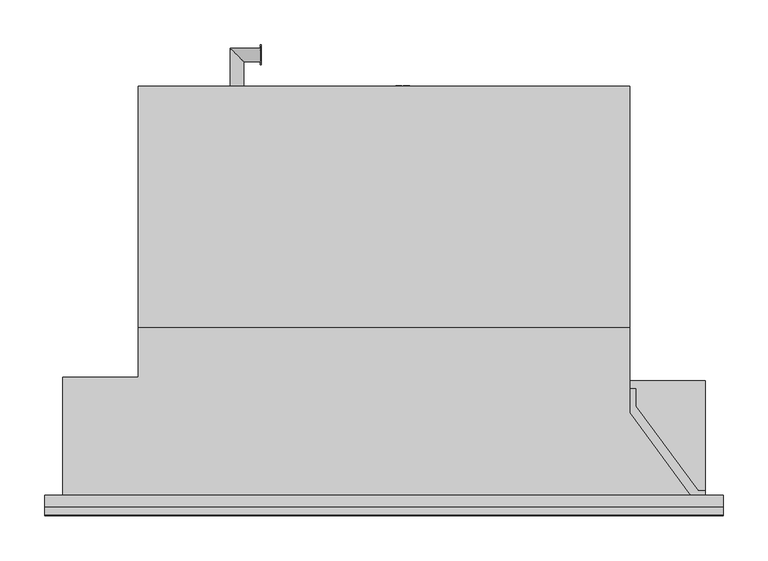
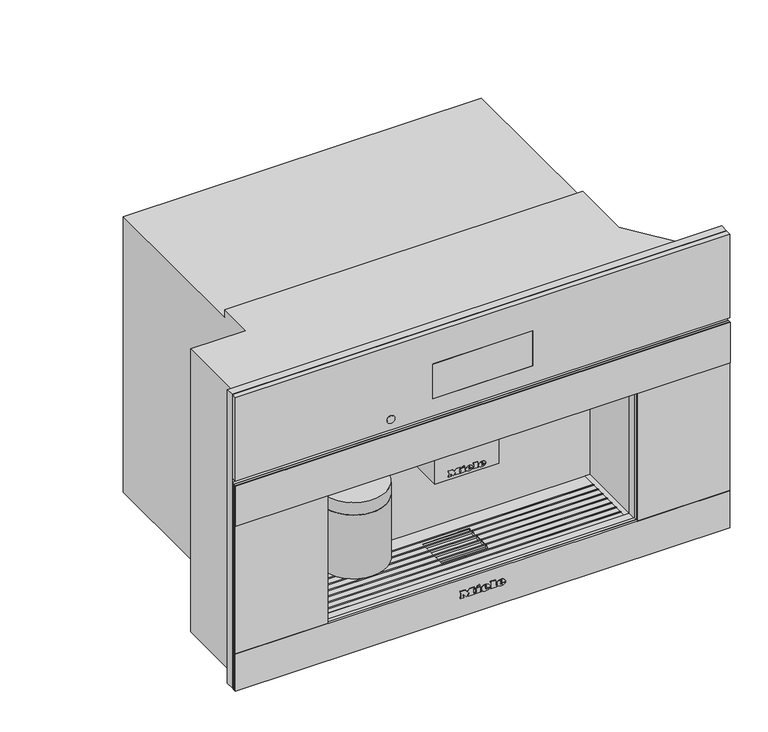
"""IFC4 building model written with IfcOpenShell, lengths in millimetres: proxy geometry, 12635830_USA_CVA7875_EDST-CLST : 29787540_USA_12635830_CVA7875_EDST-CLST."""

from ifc_helpers import new_model, si_unit, point, frame, frame_2d, origin, place, context, project, spatial, polyline, circle_curve, ellipse_curve, trimmed, segment, composite_curve, outline, extrude, faceted_brep, source, transform, mapped, element, save
from ifc_brep_helpers import plane_surface, cylinder_surface, revolved_surface, extruded_surface, advanced_brep


def specialty_equipment_da076db9(model_context):
    return source(origin(), model_context, "Body", "SolidModel", [
        extrude(outline(composite_curve([segment(trimmed(circle_curve(frame_2d((-14.0, 36.5)), 5.0), [point((-9.0, 36.5))], [point((-19.0, 36.5))], False, "CARTESIAN"), True, "CONTINUOUS"), segment(trimmed(circle_curve(frame_2d((-14.0, 36.5)), 5.0), [point((-19.0, 36.5))], [point((-9.0, 36.5))], False, "CARTESIAN"), True, "CONTINUOUS")], self_intersect=False)), frame((0.0, 0.0, 193.0), z_axis=(0.0, 0.0, 1.0), x_axis=(1.0, 0.0, 0.0)), (0.0, 0.0, 1.0), 5.0),
        extrude(outline(composite_curve([segment(trimmed(circle_curve(frame_2d((14.0, 36.5)), 5.0), [point((19.0, 36.5))], [point((9.0, 36.5))], False, "CARTESIAN"), True, "CONTINUOUS"), segment(trimmed(circle_curve(frame_2d((14.0, 36.5)), 5.0), [point((9.0, 36.5))], [point((19.0, 36.5))], False, "CARTESIAN"), True, "CONTINUOUS")], self_intersect=False)), frame((0.0, 0.0, 193.0), z_axis=(0.0, 0.0, 1.0), x_axis=(1.0, 0.0, 0.0)), (0.0, 0.0, 1.0), 5.0),
        extrude(outline(composite_curve([segment(trimmed(circle_curve(frame_2d((-156.5, 49.5)), 50.0), [point((-106.5, 49.5))], [point((-206.5, 49.5))], False, "CARTESIAN"), True, "CONTINUOUS"), segment(trimmed(circle_curve(frame_2d((-156.5, 49.5)), 50.0), [point((-206.5, 49.5))], [point((-106.5, 49.5))], False, "CARTESIAN"), True, "CONTINUOUS")], self_intersect=False)), frame((0.0, 0.0, 100.0), z_axis=(0.0, 0.0, 1.0), x_axis=(1.0, 0.0, 0.0)), (0.0, 0.0, 1.0), 103.0),
        extrude(outline(polyline([(-49.0, 95.0), (49.0, 95.0), (49.0, 20.0), (-49.0, 20.0), (-49.0, 95.0)])), frame((0.0, 0.0, 198.0), z_axis=(0.0, 0.0, 1.0), x_axis=(1.0, 0.0, 0.0)), (0.0, 0.0, 1.0), 75.0),
        extrude(outline(polyline([(479.0, 378.5), (479.0, -378.5), (4.0, -378.5), (4.0, 378.5), (479.0, 378.5)]), holes=[polyline([(273.0, 237.5), (63.0, 237.5), (63.0, -237.5), (273.0, -237.5), (273.0, 237.5)])]), frame((0.0, -13.0, 0.0), z_axis=(0.0, 1.0, 0.0), x_axis=(0.0, 0.0, 1.0)), (0.0, 0.0, 1.0), 13.0),
        extrude(outline(polyline([(281.0, 118.7), (281.0, 99.0591954), (350.457423, 4.7), (358.5, 4.7), (358.5, 0.0), (341.5, 0.0), (274.0, 91.7), (274.0, 118.7), (281.0, 118.7)])), frame((0.0, 0.0, 45.0), z_axis=(0.0, 0.0, 1.0), x_axis=(1.0, 0.0, 0.0)), (0.0, 0.0, 1.0), 34.0),
        faceted_brep([(-22.0, 400.0, 133.0), (55.0, 400.0, 133.0), (55.0, 400.0, 66.0), (35.0, 400.0, 66.0), (-22.0, 400.0, 89.0), (-22.0, 456.0, 133.0), (55.0, 456.0, 133.0), (55.0, 456.0, 66.0), (35.0, 456.0, 66.0), (-22.0, 456.0, 89.0), (358.5, 0.0, 0.0), (358.5, 127.7, 0.0), (358.5, 127.7, 45.0), (358.5, 0.0, 45.0), (-358.5, 0.0, 0.0), (-358.5, 0.0, 458.0), (-358.5, 131.7, 458.0), (-358.5, 131.7, 0.0), (-274.0, 131.7, 0.0), (-274.0, 456.0, 0.0), (274.0, 456.0, 0.0), (274.0, 127.7, 0.0), (274.0, 456.0, 446.0), (-274.0, 456.0, 446.0), (274.0, 187.0, 446.0), (-274.0, 187.0, 446.0), (274.0, 187.0, 458.0), (-274.0, 187.0, 458.0), (341.5, 0.0, 458.0), (274.0, 91.7, 458.0), (-274.0, 131.7, 458.0), (341.5, 0.0, 45.0), (237.5, 0.0, 273.0), (237.5, 0.0, 63.0), (229.5, 0.0, 63.0), (229.5, 0.0, 62.0), (-229.5, 0.0, 62.0), (-229.5, 0.0, 63.0), (-237.5, 0.0, 63.0), (-237.5, 0.0, 273.0), (237.5, 104.5, 273.0), (-237.5, 104.5, 273.0), (-237.5, 104.5, 63.0), (-229.5, 104.5, 63.0), (-229.5, 104.5, 62.0), (229.5, 104.5, 62.0), (229.5, 104.5, 63.0), (237.5, 104.5, 63.0), (-36.0, 76.0, 62.0), (36.0, 76.0, 62.0), (36.0, 25.0, 62.0), (-36.0, 25.0, 62.0), (36.0, 76.0, 58.0), (-36.0, 76.0, 58.0), (-36.0, 25.0, 58.0), (36.0, 25.0, 58.0), (274.0, 91.7, 45.0), (274.0, 127.7, 45.0)], [[[0, 1, 2, 3, 4]], [[1, 0, 5, 6]], [[2, 1, 6, 7]], [[3, 2, 7, 8]], [[4, 3, 8, 9]], [[0, 4, 9, 5]], [[10, 11, 12, 13]], [[14, 15, 16, 17]], [[10, 14, 17, 18, 19, 20, 21, 11]], [[22, 20, 19, 23], [6, 5, 9, 8, 7]], [[24, 22, 23, 25]], [[26, 24, 25, 27]], [[15, 28, 29, 26, 27, 30, 16]], [[15, 14, 10, 13, 31, 28], [32, 33, 34, 35, 36, 37, 38, 39]], [[40, 41, 42, 43, 44, 45, 46, 47]], [[40, 47, 33, 32]], [[33, 47, 46, 34]], [[42, 38, 37, 43]], [[42, 41, 39, 38]], [[41, 40, 32, 39]], [[45, 44, 36, 35], [48, 49, 50, 51]], [[36, 44, 43, 37]], [[45, 35, 34, 46]], [[52, 53, 54, 55]], [[53, 52, 49, 48]], [[54, 53, 48, 51]], [[55, 54, 51, 50]], [[52, 55, 50, 49]], [[21, 20, 22, 24, 26, 29, 56, 57]], [[18, 30, 27, 25, 23, 19]], [[11, 21, 57, 12]], [[57, 56, 31, 13, 12]], [[30, 18, 17, 16]], [[31, 56, 29, 28]]]),
        extrude(outline(polyline([(480.48348, 22.0), (480.48348, 32.045631), (481.7391839, 32.045631), (481.7391839, 27.128275), (486.8895318, 32.045631), (488.6455552, 32.045631), (484.3217155, 27.9155425), (488.8025182, 22.0), (487.267224, 22.0), (483.4314411, 27.0669613), (481.7391839, 25.4531857), (481.7391839, 22.0), (480.48348, 22.0)])), frame((-138.0, 0.0, 0.0), z_axis=(1.0, 0.0, 0.0), x_axis=(0.0, 1.0, 0.0)), (0.0, 0.0, 1.0), 1.0),
        extrude(outline(polyline([(491.5420128, 22.0), (488.8025182, 32.045631), (490.0974628, 32.045631), (491.6867131, 25.4433755), (492.1772224, 23.4053092), (492.7020674, 25.207931), (494.6935352, 32.045631), (496.5599232, 32.045631), (498.0069257, 27.0890343), (499.0835937, 23.4053092), (499.5593878, 25.3845144), (501.1633533, 32.045631), (502.4582979, 32.045631), (499.7163507, 22.0), (498.3748077, 22.0), (495.9664069, 29.7500474), (495.630408, 30.8316204), (495.2527159, 29.5293182), (493.0576866, 22.0), (491.5420128, 22.0)])), frame((-138.0, 0.0, 0.0), z_axis=(1.0, 0.0, 0.0), x_axis=(0.0, 1.0, 0.0)), (0.0, 0.0, 1.0), 1.0),
        advanced_brep(
        [(-156.5, 456.0, 27.0), (-171.5, 456.0, 27.0), (-156.5, 483.5, 27.0), (-171.5, 498.5, 27.0), (-138.0, 483.5, 27.0), (-138.0, 498.5, 27.0)],
        [
            (0, 1, circle_curve(frame((-164.0, 456.0, 27.0), z_axis=(0.0, -1.0, 0.0), x_axis=(-1.0, 0.0, 0.0)), 7.5)),
            (1, 0, circle_curve(frame((-164.0, 456.0, 27.0), z_axis=(0.0, -1.0, 0.0), x_axis=(-1.0, 0.0, 0.0)), 7.5)),
            (0, 2),
            (2, 3, ellipse_curve(frame((-164.0, 491.0, 27.0), z_axis=(-0.707106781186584, -0.7071067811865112, 0.0), x_axis=(0.7071067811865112, -0.7071067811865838, 0.0)), 10.6066017, 7.5)),
            (3, 1),
            (3, 2, ellipse_curve(frame((-164.0, 491.0, 27.0), z_axis=(-0.707106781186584, -0.7071067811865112, 0.0), x_axis=(0.7071067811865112, -0.7071067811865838, 0.0)), 10.6066017, 7.5)),
            (4, 5, circle_curve(frame((-138.0, 491.0, 27.0), z_axis=(1.0, 0.0, 0.0), x_axis=(0.0, 1.0, 0.0)), 7.5)),
            (5, 4, circle_curve(frame((-138.0, 491.0, 27.0), z_axis=(1.0, 0.0, 0.0), x_axis=(0.0, 1.0, 0.0)), 7.5)),
            (2, 4),
            (5, 3),
        ],
        [
            plane_surface(frame((-164.0, 456.0, 27.0), z_axis=(0.0, -1.0, 0.0), x_axis=(0.0, 0.0, 1.0))),
            cylinder_surface(frame((-164.0, 456.0, 27.0), z_axis=(0.0, -1.0, 0.0), x_axis=(-1.0, 0.0, 0.0)), 7.5),
            plane_surface(frame((-138.0, 491.0, 27.0), z_axis=(1.0, 0.0, 0.0), x_axis=(0.0, 0.0, 1.0))),
            cylinder_surface(frame((-164.0, 491.0, 27.0), z_axis=(-1.0, 0.0, 0.0), x_axis=(0.0, 1.0, 0.0)), 7.5),
        ],
        [
            (0, [[1, 2]]),
            (1, [[-1, 3, 4, 5]]),
            (1, [[-2, -5, 6, -3]]),
            (2, [[7, 8]]),
            (3, [[-4, 9, -8, 10]]),
            (3, [[-6, -10, -7, -9]]),
        ],
    ),
        extrude(outline(polyline([(99.0, 28.8772152), (109.045631, 28.8772152), (109.045631, 21.6569179), (107.7899271, 21.6569179), (107.7899271, 27.6215114), (104.8076304, 27.6215114), (104.8076304, 21.9708439), (103.5519266, 21.9708439), (103.5519266, 27.6215114), (100.2557039, 27.6215114), (100.2557039, 21.499955), (99.0, 21.499955), (99.0, 28.8772152)])), frame((0.0, 456.0, 0.0), z_axis=(0.0, 1.0, 0.0), x_axis=(0.0, 0.0, 1.0)), (0.0, 0.0, 1.0), 1.0),
        extrude(outline(polyline([(99.0, 19.6163991), (109.045631, 19.6163991), (109.045631, 18.3606953), (100.2557039, 18.3606953), (100.2557039, 13.3378798), (99.0, 13.3378798), (99.0, 19.6163991)])), frame((0.0, 456.0, 0.0), z_axis=(0.0, 1.0, 0.0), x_axis=(0.0, 0.0, 1.0)), (0.0, 0.0, 1.0), 1.0),
        advanced_brep(
        [(55.0, 425.5, 104.0), (55.0, 410.5, 104.0), (28.5, 425.5, 104.0), (13.5, 410.5, 104.0), (28.5, 456.0, 104.0), (13.5, 456.0, 104.0)],
        [
            (0, 1, circle_curve(frame((55.0, 418.0, 104.0), z_axis=(1.0, 0.0, 0.0), x_axis=(0.0, -1.0, 0.0)), 7.5)),
            (1, 0, circle_curve(frame((55.0, 418.0, 104.0), z_axis=(1.0, 0.0, 0.0), x_axis=(0.0, -1.0, 0.0)), 7.5)),
            (0, 2),
            (2, 3, ellipse_curve(frame((21.0, 418.0, 104.0), z_axis=(0.7071067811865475, -0.7071067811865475, 0.0), x_axis=(0.7071067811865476, 0.7071067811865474, 0.0)), 10.6066017, 7.5)),
            (3, 1),
            (3, 2, ellipse_curve(frame((21.0, 418.0, 104.0), z_axis=(0.7071067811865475, -0.7071067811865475, 0.0), x_axis=(0.7071067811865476, 0.7071067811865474, 0.0)), 10.6066017, 7.5)),
            (4, 5, circle_curve(frame((21.0, 456.0, 104.0), z_axis=(0.0, 1.0, 0.0), x_axis=(-1.0, 0.0, 0.0)), 7.5)),
            (5, 4, circle_curve(frame((21.0, 456.0, 104.0), z_axis=(0.0, 1.0, 0.0), x_axis=(-1.0, 0.0, 0.0)), 7.5)),
            (2, 4),
            (5, 3),
        ],
        [
            plane_surface(frame((55.0, 418.0, 104.0), z_axis=(1.0, 0.0, 0.0), x_axis=(0.0, 0.0, 1.0))),
            cylinder_surface(frame((55.0, 418.0, 104.0), z_axis=(1.0, 0.0, 0.0), x_axis=(0.0, -1.0, 0.0)), 7.5),
            plane_surface(frame((21.0, 456.0, 104.0), z_axis=(0.0, 1.0, 0.0), x_axis=(0.0, 0.0, 1.0))),
            cylinder_surface(frame((21.0, 418.0, 104.0), z_axis=(0.0, -1.0, 0.0), x_axis=(-1.0, 0.0, 0.0)), 7.5),
        ],
        [
            (0, [[1, 2]]),
            (1, [[-1, 3, 4, 5]]),
            (1, [[-2, -5, 6, -3]]),
            (2, [[7, 8]]),
            (3, [[-4, 9, -8, 10]]),
            (3, [[-6, -10, -7, -9]]),
        ],
    ),
        advanced_brep(
        [(-110.0, 49.5, 252.0), (-203.0, 49.5, 252.0), (-206.5, 49.5, 223.5), (-106.5, 49.5, 223.5), (-110.0, 49.5, 273.0), (-203.0, 49.5, 273.0), (-156.5, 49.5, 273.0), (-106.5, 49.5, 203.0), (-206.5, 49.5, 203.0), (-156.5, 49.5, 203.0)],
        [
            (0, 1, circle_curve(frame((-156.5, 49.5, 252.0), z_axis=(0.0, 0.0, -1.0), x_axis=(-1.0, 0.0, 0.0)), 46.5)),
            (1, 2, circle_curve(frame((-206.7961166, 49.5, 238.0012775), z_axis=(0.0, 1.0, 0.0), x_axis=(-1.0, 0.0, 0.0)), 14.5043005)),
            (2, 3, circle_curve(frame((-156.5, 49.5, 223.5), z_axis=(0.0, 0.0, 1.0), x_axis=(-1.0, 0.0, 0.0)), 50.0)),
            (3, 0, circle_curve(frame((-106.2038834, 49.5, 238.0012775), z_axis=(0.0, 1.0, 0.0), x_axis=(1.0, 0.0, 0.0)), 14.5043005)),
            (4, 5, circle_curve(frame((-156.5, 49.5, 273.0), z_axis=(0.0, 0.0, -1.0), x_axis=(-1.0, 0.0, 0.0)), 46.5)),
            (5, 1),
            (0, 4),
            (6, 4),
            (4, 5, circle_curve(frame((-156.5, 49.5, 273.0), z_axis=(0.0, 0.0, 1.0), x_axis=(-1.0, 0.0, 0.0)), 46.5)),
            (5, 6),
            (7, 8, circle_curve(frame((-156.5, 49.5, 203.0), z_axis=(0.0, 0.0, -1.0), x_axis=(-1.0, 0.0, 0.0)), 50.0)),
            (8, 9),
            (9, 7),
            (8, 7, circle_curve(frame((-156.5, 49.5, 203.0), z_axis=(0.0, 0.0, -1.0), x_axis=(-1.0, 0.0, 0.0)), 50.0)),
            (2, 8),
            (7, 3),
            (2, 3, circle_curve(frame((-156.5, 49.5, 223.5), z_axis=(0.0, 0.0, -1.0), x_axis=(-1.0, 0.0, 0.0)), 50.0)),
            (1, 0, circle_curve(frame((-156.5, 49.5, 252.0), z_axis=(0.0, 0.0, -1.0), x_axis=(-1.0, 0.0, 0.0)), 46.5)),
        ],
        [
            revolved_surface(trimmed(ellipse_curve(frame((-206.7961166, 49.5, 238.0012775), z_axis=(0.0, -1.0, 0.0), x_axis=(-1.0, 0.0, 0.0)), 14.5043005, 14.5043005), [point((-206.5, 49.5, 223.5))], [point((-203.0, 49.5, 252.0))], True, "CARTESIAN"), (-156.5, 49.5, 388.7361736), (0.0, 0.0, 1.0)),
            cylinder_surface(frame((-156.5, 49.5, 388.7361736), z_axis=(0.0, 0.0, 1.0), x_axis=(-1.0, 0.0, 0.0)), 46.5),
            plane_surface(frame((-156.5, 49.5, 273.0), z_axis=(0.0, 0.0, 1.0), x_axis=(-1.0, 0.0, 0.0))),
            plane_surface(frame((-156.5, 49.5, 203.0), z_axis=(0.0, 0.0, -1.0), x_axis=(-1.0, 0.0, 0.0))),
            cylinder_surface(frame((-156.5, 49.5, 388.7361736), z_axis=(0.0, 0.0, 1.0), x_axis=(-1.0, 0.0, 0.0)), 50.0),
        ],
        [
            (0, [[1, 2, 3, 4]]),
            (1, [[5, 6, -1, 7]]),
            (2, [[8, 9, 10]]),
            (3, [[11, 12, 13]]),
            (3, [[14, -13, -12]]),
            (4, [[-3, 15, -11, 16]]),
            (4, [[17, -16, -14, -15]]),
            (0, [[18, -4, -17, -2]]),
            (1, [[-9, -7, -18, -6]]),
            (2, [[-10, -5, -8]]),
        ],
    ),
        faceted_brep([(229.5, 82.0925571, 60.0), (229.5, 80.0925571, 60.0), (-229.5, 80.0925571, 60.0), (-229.5, 82.0925571, 60.0), (229.5, 70.0550731, 60.0), (229.5, 68.0550731, 60.0), (-229.5, 68.0550731, 60.0), (-229.5, 70.0550731, 60.0), (229.5, 58.0175891, 60.0), (229.5, 56.0175891, 60.0), (-229.5, 56.0175891, 60.0), (-229.5, 58.0175891, 60.0), (229.5, 45.9801052, 60.0), (229.5, 43.9801052, 60.0), (-229.5, 43.9801052, 60.0), (-229.5, 45.9801052, 60.0), (229.5, 33.9426212, 60.0), (229.5, 31.9426212, 60.0), (-229.5, 31.9426212, 60.0), (-229.5, 33.9426212, 60.0), (229.5, 21.9776522, 60.0), (229.5, 19.9776522, 60.0), (-229.5, 19.9776522, 60.0), (-229.5, 21.9776522, 60.0), (229.5, 10.0, 60.0), (229.5, 8.0, 60.0), (-229.5, 8.0, 60.0), (-229.5, 10.0, 60.0), (-229.5, 45.9801052, 62.0), (-36.0, 45.9801052, 62.0), (-36.0, 45.9801052, 63.0), (-229.5, 45.9801052, 63.0), (-229.5, 45.9801052, 63.5), (229.5, 45.9801052, 63.5), (229.5, 45.9801052, 63.0), (36.0, 45.9801052, 63.0), (36.0, 45.9801052, 62.0), (229.5, 45.9801052, 62.0), (229.5, 19.9776522, 62.0), (229.5, 10.0, 62.0), (-229.5, 10.0, 62.0), (-229.5, 19.9776522, 62.0), (229.5, 43.9801052, 62.0), (229.5, 33.9426212, 62.0), (36.0, 33.9426212, 62.0), (36.0, 43.9801052, 62.0), (229.5, 56.0175891, 62.0), (36.0, 56.0175891, 62.0), (229.5, 68.0550731, 62.0), (229.5, 58.0175891, 62.0), (36.0, 58.0175891, 62.0), (36.0, 68.0550731, 62.0), (-229.5, 33.9426212, 62.0), (-229.5, 43.9801052, 62.0), (-36.0, 43.9801052, 62.0), (-36.0, 33.9426212, 62.0), (-229.5, 56.0175891, 62.0), (-36.0, 56.0175891, 62.0), (-229.5, 58.0175891, 62.0), (-229.5, 68.0550731, 62.0), (-36.0, 68.0550731, 62.0), (-36.0, 58.0175891, 62.0), (-229.5, 104.5, 62.0), (229.5, 104.5, 62.0), (229.5, 82.0925571, 62.0), (-229.5, 82.0925571, 62.0), (36.0, 76.0, 62.0), (-36.0, 76.0, 62.0), (-36.0, 70.0550731, 62.0), (-229.5, 70.0550731, 62.0), (-229.5, 80.0925571, 62.0), (229.5, 80.0925571, 62.0), (229.5, 70.0550731, 62.0), (36.0, 70.0550731, 62.0), (229.5, 0.0, 62.0), (-229.5, 0.0, 62.0), (-229.5, 8.0, 62.0), (229.5, 8.0, 62.0), (-36.0, 25.0, 62.0), (36.0, 25.0, 62.0), (36.0, 31.9426212, 62.0), (229.5, 31.9426212, 62.0), (229.5, 21.9776522, 62.0), (-229.5, 21.9776522, 62.0), (-229.5, 31.9426212, 62.0), (-36.0, 31.9426212, 62.0), (229.5, 104.5, 63.0), (-229.5, 104.5, 63.0), (-229.5, 82.0925571, 63.0), (229.5, 82.0925571, 63.0), (-229.5, 0.0, 63.0), (229.5, 0.0, 63.0), (229.5, 8.0, 63.0), (-229.5, 8.0, 63.0), (-36.0, 76.0, 63.0), (36.0, 76.0, 63.0), (36.0, 70.0550731, 63.0), (229.5, 70.0550731, 63.0), (229.5, 80.0925571, 63.0), (-229.5, 80.0925571, 63.0), (-229.5, 70.0550731, 63.0), (-36.0, 70.0550731, 63.0), (36.0, 25.0, 63.0), (-36.0, 25.0, 63.0), (-36.0, 31.9426212, 63.0), (-229.5, 31.9426212, 63.0), (-229.5, 21.9776522, 63.0), (229.5, 21.9776522, 63.0), (229.5, 31.9426212, 63.0), (36.0, 31.9426212, 63.0), (-229.5, 19.9776522, 63.0), (-229.5, 10.0, 63.0), (229.5, 10.0, 63.0), (229.5, 19.9776522, 63.0), (-229.5, 43.9801052, 63.0), (-229.5, 33.9426212, 63.0), (-36.0, 33.9426212, 63.0), (-36.0, 43.9801052, 63.0), (-229.5, 56.0175891, 63.0), (-36.0, 56.0175891, 63.0), (-229.5, 68.0550731, 63.0), (-229.5, 58.0175891, 63.0), (-36.0, 58.0175891, 63.0), (-36.0, 68.0550731, 63.0), (229.5, 33.9426212, 63.0), (229.5, 43.9801052, 63.0), (36.0, 43.9801052, 63.0), (36.0, 33.9426212, 63.0), (229.5, 56.0175891, 63.0), (36.0, 56.0175891, 63.0), (229.5, 58.0175891, 63.0), (229.5, 68.0550731, 63.0), (36.0, 68.0550731, 63.0), (36.0, 58.0175891, 63.0), (-229.5, 8.0, 63.5), (-229.5, 10.0, 63.5), (-229.5, 19.9776522, 63.5), (-229.5, 21.9776522, 63.5), (-229.5, 31.9426212, 63.5), (-229.5, 33.9426212, 63.5), (-229.5, 43.9801052, 63.5), (-229.5, 56.0175891, 63.5), (-229.5, 58.0175891, 63.5), (-229.5, 68.0550731, 63.5), (-229.5, 70.0550731, 63.5), (-229.5, 80.0925571, 63.5), (-229.5, 82.0925571, 63.5), (229.5, 82.0925571, 63.5), (229.5, 80.0925571, 63.5), (229.5, 70.0550731, 63.5), (229.5, 68.0550731, 63.5), (229.5, 58.0175891, 63.5), (229.5, 56.0175891, 63.5), (229.5, 43.9801052, 63.5), (229.5, 33.9426212, 63.5), (229.5, 31.9426212, 63.5), (229.5, 21.9776522, 63.5), (229.5, 19.9776522, 63.5), (229.5, 10.0, 63.5), (229.5, 8.0, 63.5)], [[[0, 1, 2, 3]], [[4, 5, 6, 7]], [[8, 9, 10, 11]], [[12, 13, 14, 15]], [[16, 17, 18, 19]], [[20, 21, 22, 23]], [[24, 25, 26, 27]], [[12, 15, 28, 29, 30, 31, 32, 33, 34, 35, 36, 37]], [[38, 39, 40, 41]], [[42, 43, 44, 45]], [[46, 37, 36, 47]], [[48, 49, 50, 51]], [[52, 53, 54, 55]], [[28, 56, 57, 29]], [[58, 59, 60, 61]], [[62, 63, 64, 65]], [[66, 67, 68, 69, 70, 71, 72, 73]], [[74, 75, 76, 77]], [[78, 79, 80, 81, 82, 83, 84, 85]], [[86, 87, 88, 89]], [[90, 91, 92, 93]], [[94, 95, 96, 97, 98, 99, 100, 101]], [[102, 103, 104, 105, 106, 107, 108, 109]], [[110, 111, 112, 113]], [[114, 115, 116, 117]], [[118, 31, 30, 119]], [[120, 121, 122, 123]], [[124, 125, 126, 127]], [[34, 128, 129, 35]], [[130, 131, 132, 133]], [[63, 62, 87, 86]], [[87, 62, 65, 3, 2, 70, 69, 7, 6, 59, 58, 11, 10, 56, 28, 15, 14, 53, 52, 19, 18, 84, 83, 23, 22, 41, 40, 27, 26, 76, 75, 90, 93, 134, 135, 111, 110, 136, 137, 106, 105, 138, 139, 115, 114, 140, 32, 31, 118, 141, 142, 121, 120, 143, 144, 100, 99, 145, 146, 88]], [[75, 74, 91, 90]], [[63, 86, 89, 147, 148, 98, 97, 149, 150, 131, 130, 151, 152, 128, 34, 33, 153, 125, 124, 154, 155, 108, 107, 156, 157, 113, 112, 158, 159, 92, 91, 74, 77, 25, 24, 39, 38, 21, 20, 82, 81, 17, 16, 43, 42, 13, 12, 37, 46, 9, 8, 49, 48, 5, 4, 72, 71, 1, 0, 64]], [[66, 95, 94, 67]], [[55, 54, 117, 116]], [[29, 57, 119, 30]], [[61, 60, 123, 122]], [[67, 94, 101, 68]], [[103, 78, 85, 104]], [[78, 103, 102, 79]], [[45, 44, 127, 126]], [[47, 36, 35, 129]], [[51, 50, 133, 132]], [[95, 66, 73, 96]], [[79, 102, 109, 80]], [[158, 135, 134, 159]], [[156, 137, 136, 157]], [[154, 139, 138, 155]], [[33, 32, 140, 153]], [[151, 142, 141, 152]], [[149, 144, 143, 150]], [[147, 146, 145, 148]], [[24, 27, 40, 39]], [[135, 158, 112, 111]], [[26, 25, 77, 76]], [[159, 134, 93, 92]], [[20, 23, 83, 82]], [[137, 156, 107, 106]], [[22, 21, 38, 41]], [[157, 136, 110, 113]], [[16, 19, 52, 55, 116, 115, 139, 154, 124, 127, 44, 43]], [[18, 17, 81, 80, 109, 108, 155, 138, 105, 104, 85, 84]], [[14, 13, 42, 45, 126, 125, 153, 140, 114, 117, 54, 53]], [[8, 11, 58, 61, 122, 121, 142, 151, 130, 133, 50, 49]], [[10, 9, 46, 47, 129, 128, 152, 141, 118, 119, 57, 56]], [[4, 7, 69, 68, 101, 100, 144, 149, 97, 96, 73, 72]], [[6, 5, 48, 51, 132, 131, 150, 143, 120, 123, 60, 59]], [[0, 3, 65, 64]], [[146, 147, 89, 88]], [[2, 1, 71, 70]], [[148, 145, 99, 98]]]),
        advanced_brep(
        [(27.088, -23.0, 36.7018), (27.088, -23.0, 37.8532), (34.7146, -23.0, 37.8532), (21.445, -23.0, 37.8532), (24.58, -23.0, 34.0), (34.5208, -23.0, 36.7018), (31.078, -23.0, 36.7018), (28.3648, -23.0, 35.425), (27.088, -23.0, 39.3124), (27.088, -23.0, 40.555), (29.0374, -23.0, 40.555), (29.0374, -23.0, 39.3124), (27.088, -22.0, 36.7018), (28.3648, -22.0, 35.425), (31.078, -22.0, 36.7018), (34.5208, -22.0, 36.7018), (24.58, -22.0, 34.0), (21.445, -22.0, 37.8532), (34.7146, -22.0, 37.8532), (27.088, -22.0, 37.8532), (27.088, -22.0, 39.3124), (29.0374, -22.0, 39.3124), (29.0374, -22.0, 40.555), (27.088, -22.0, 40.555)],
        [
            (0, 1),
            (1, 2),
            (2, 3, ellipse_curve(frame((28.0798, -23.0, 37.8532), z_axis=(0.0, -1.0, 0.0), x_axis=(-1.0, 0.0, 0.0)), 6.6348, 5.4834)),
            (3, 4, circle_curve(frame((25.8568622, -23.0, 38.2408), z_axis=(0.0, -1.0, 0.0), x_axis=(0.0, 0.0, -1.0)), 4.4288556)),
            (4, 5, circle_curve(frame((27.9469808, -23.0, 41.2504), z_axis=(0.0, -1.0, 0.0), x_axis=(0.0, 0.0, -1.0)), 7.9940516)),
            (5, 6),
            (6, 7, circle_curve(frame((28.9220588, -23.0, 37.762), z_axis=(0.0, 1.0, 0.0), x_axis=(0.0, 0.0, -1.0)), 2.4025208)),
            (7, 0, circle_curve(frame((28.3648, -23.0, 36.7018), z_axis=(0.0, 1.0, 0.0), x_axis=(0.0, 0.0, -1.0)), 1.2768)),
            (8, 9),
            (9, 10, circle_curve(frame((28.0627, -23.0, 40.555), z_axis=(0.0, 1.0, 0.0), x_axis=(0.0, 0.0, -1.0)), 0.9747)),
            (10, 11),
            (11, 8),
            (12, 13, circle_curve(frame((28.3648, -22.0, 36.7018), z_axis=(0.0, -1.0, 0.0), x_axis=(0.0, 0.0, -1.0)), 1.2768)),
            (13, 14, circle_curve(frame((28.9220588, -22.0, 37.762), z_axis=(0.0, -1.0, 0.0), x_axis=(0.0, 0.0, -1.0)), 2.4025208)),
            (14, 15),
            (15, 16, circle_curve(frame((27.9469808, -22.0, 41.2504), z_axis=(0.0, 1.0, 0.0), x_axis=(0.0, 0.0, -1.0)), 7.9940516)),
            (16, 17, circle_curve(frame((25.8568622, -22.0, 38.2408), z_axis=(0.0, 1.0, 0.0), x_axis=(0.0, 0.0, -1.0)), 4.4288556)),
            (17, 18, ellipse_curve(frame((28.0798, -22.0, 37.8532), z_axis=(0.0, 1.0, 0.0), x_axis=(-1.0, 0.0, 0.0)), 6.6348, 5.4834)),
            (18, 19),
            (19, 12),
            (20, 21),
            (21, 22),
            (22, 23, circle_curve(frame((28.0627, -22.0, 40.555), z_axis=(0.0, -1.0, 0.0), x_axis=(0.0, 0.0, -1.0)), 0.9747)),
            (23, 20),
            (0, 12),
            (19, 1),
            (18, 2),
            (5, 15),
            (14, 6),
            (17, 3),
            (13, 7),
            (16, 4),
            (8, 20),
            (23, 9),
            (22, 10),
            (21, 11),
        ],
        [
            plane_surface(frame((27.088, -23.0, 37.8532), z_axis=(0.0, -1.0, 0.0), x_axis=(0.0, 0.0, 1.0))),
            plane_surface(frame((27.088, -22.0, 37.8532), z_axis=(0.0, 1.0, 0.0), x_axis=(0.0, 0.0, -1.0))),
            plane_surface(frame((27.088, -23.0, 36.7018), z_axis=(1.0, 0.0, 0.0), x_axis=(0.0, 1.0, 0.0))),
            plane_surface(frame((27.088, -23.0, 37.8532), z_axis=(0.0, 0.0, -1.0), x_axis=(0.0, 1.0, 0.0))),
            plane_surface(frame((34.5208, -23.0, 36.7018), z_axis=(0.0, 0.0, 1.0), x_axis=(0.0, 1.0, 0.0))),
            extruded_surface(trimmed(ellipse_curve(frame((28.0798, -21.0, 37.8532), z_axis=(0.0, -1.0, 0.0), x_axis=(-1.0, 0.0, 0.0)), 6.6348, 5.4834), [point((34.7146, -21.0, 37.8532))], [point((21.445, -21.0, 37.8532))], True, "CARTESIAN"), (0.0, -1.0, 0.0), 1.0),
            revolved_surface(polyline([(28.9220588, -22.0, 35.3594792), (28.9220588, -23.0, 35.3594792)]), (28.9220588, -22.0, 37.762), (0.0, 1.0, 0.0)),
            revolved_surface(polyline([(28.3648, -22.0, 35.425), (28.3648, -23.0, 35.425)]), (28.3648, -22.0, 36.7018), (0.0, 1.0, 0.0)),
            cylinder_surface(frame((25.8568622, -22.0, 38.2408), z_axis=(0.0, -1.0, 0.0), x_axis=(0.0, 0.0, -1.0)), 4.4288556),
            cylinder_surface(frame((27.9469808, -22.0, 41.2504), z_axis=(0.0, -1.0, 0.0), x_axis=(0.0, 0.0, -1.0)), 7.9940516),
            plane_surface(frame((27.088, -23.0, 39.3124), z_axis=(1.0, 0.0, 0.0), x_axis=(0.0, 1.0, 0.0))),
            revolved_surface(polyline([(28.0627, -22.0, 39.5803), (28.0627, -23.0, 39.5803)]), (28.0627, -22.0, 40.555), (0.0, 1.0, 0.0)),
            plane_surface(frame((29.0374, -23.0, 40.555), z_axis=(-1.0, 0.0, 0.0), x_axis=(0.0, 1.0, 0.0))),
            plane_surface(frame((29.0374, -23.0, 39.3124), z_axis=(0.0, 0.0, 1.0), x_axis=(0.0, 1.0, 0.0))),
        ],
        [
            (0, [[1, 2, 3, 4, 5, 6, 7, 8], [9, 10, 11, 12]]),
            (1, [[13, 14, 15, 16, 17, 18, 19, 20], [21, 22, 23, 24]]),
            (2, [[-1, 25, -20, 26]]),
            (3, [[-2, -26, -19, 27]]),
            (4, [[-6, 28, -15, 29]]),
            (5, [[-3, -27, -18, 30]]),
            (6, [[-7, -29, -14, 31]]),
            (7, [[-8, -31, -13, -25]]),
            (8, [[-4, -30, -17, 32]]),
            (9, [[-5, -32, -16, -28]]),
            (10, [[-9, 33, -24, 34]]),
            (11, [[-10, -34, -23, 35]]),
            (12, [[-11, -35, -22, 36]]),
            (13, [[-12, -36, -21, -33]]),
        ],
    ),
        advanced_brep(
        [(3.2962, -23.0, 36.7018), (3.2962, -23.0, 37.8532), (10.9228, -23.0, 37.8532), (-2.3468, -23.0, 37.8532), (0.7882, -23.0, 34.0), (10.729, -23.0, 36.7018), (7.2862, -23.0, 36.7018), (4.573, -23.0, 35.425), (3.2962, -23.0, 39.3124), (3.2962, -23.0, 40.555), (5.2456, -23.0, 40.555), (5.2456, -23.0, 39.3124), (3.2962, -22.0, 36.7018), (4.573, -22.0, 35.425), (7.2862, -22.0, 36.7018), (10.729, -22.0, 36.7018), (0.7882, -22.0, 34.0), (-2.3468, -22.0, 37.8532), (10.9228, -22.0, 37.8532), (3.2962, -22.0, 37.8532), (3.2962, -22.0, 39.3124), (5.2456, -22.0, 39.3124), (5.2456, -22.0, 40.555), (3.2962, -22.0, 40.555)],
        [
            (0, 1),
            (1, 2),
            (2, 3, ellipse_curve(frame((4.288, -23.0, 37.8532), z_axis=(0.0, -1.0, 0.0), x_axis=(-1.0, 0.0, 0.0)), 6.6348, 5.4834)),
            (3, 4, circle_curve(frame((2.0650622, -23.0, 38.2408), z_axis=(0.0, -1.0, 0.0), x_axis=(0.0, 0.0, -1.0)), 4.4288556)),
            (4, 5, circle_curve(frame((4.1551808, -23.0, 41.2504), z_axis=(0.0, -1.0, 0.0), x_axis=(0.0, 0.0, -1.0)), 7.9940516)),
            (5, 6),
            (6, 7, circle_curve(frame((5.1302588, -23.0, 37.762), z_axis=(0.0, 1.0, 0.0), x_axis=(0.0, 0.0, -1.0)), 2.4025208)),
            (7, 0, circle_curve(frame((4.573, -23.0, 36.7018), z_axis=(0.0, 1.0, 0.0), x_axis=(0.0, 0.0, -1.0)), 1.2768)),
            (8, 9),
            (9, 10, circle_curve(frame((4.2709, -23.0, 40.555), z_axis=(0.0, 1.0, 0.0), x_axis=(0.0, 0.0, -1.0)), 0.9747)),
            (10, 11),
            (11, 8),
            (12, 13, circle_curve(frame((4.573, -22.0, 36.7018), z_axis=(0.0, -1.0, 0.0), x_axis=(0.0, 0.0, -1.0)), 1.2768)),
            (13, 14, circle_curve(frame((5.1302588, -22.0, 37.762), z_axis=(0.0, -1.0, 0.0), x_axis=(0.0, 0.0, -1.0)), 2.4025208)),
            (14, 15),
            (15, 16, circle_curve(frame((4.1551808, -22.0, 41.2504), z_axis=(0.0, 1.0, 0.0), x_axis=(0.0, 0.0, -1.0)), 7.9940516)),
            (16, 17, circle_curve(frame((2.0650622, -22.0, 38.2408), z_axis=(0.0, 1.0, 0.0), x_axis=(0.0, 0.0, -1.0)), 4.4288556)),
            (17, 18, ellipse_curve(frame((4.288, -22.0, 37.8532), z_axis=(0.0, 1.0, 0.0), x_axis=(-1.0, 0.0, 0.0)), 6.6348, 5.4834)),
            (18, 19),
            (19, 12),
            (20, 21),
            (21, 22),
            (22, 23, circle_curve(frame((4.2709, -22.0, 40.555), z_axis=(0.0, -1.0, 0.0), x_axis=(0.0, 0.0, -1.0)), 0.9747)),
            (23, 20),
            (0, 12),
            (19, 1),
            (18, 2),
            (5, 15),
            (14, 6),
            (17, 3),
            (13, 7),
            (16, 4),
            (8, 20),
            (23, 9),
            (22, 10),
            (21, 11),
        ],
        [
            plane_surface(frame((3.2962, -23.0, 37.8532), z_axis=(0.0, -1.0, 0.0), x_axis=(0.0, 0.0, 1.0))),
            plane_surface(frame((3.2962, -22.0, 37.8532), z_axis=(0.0, 1.0, 0.0), x_axis=(0.0, 0.0, -1.0))),
            plane_surface(frame((3.2962, -23.0, 36.7018), z_axis=(1.0, 0.0, 0.0), x_axis=(0.0, 1.0, 0.0))),
            plane_surface(frame((3.2962, -23.0, 37.8532), z_axis=(0.0, 0.0, -1.0), x_axis=(0.0, 1.0, 0.0))),
            plane_surface(frame((10.729, -23.0, 36.7018), z_axis=(0.0, 0.0, 1.0), x_axis=(0.0, 1.0, 0.0))),
            extruded_surface(trimmed(ellipse_curve(frame((4.288, -21.0, 37.8532), z_axis=(0.0, -1.0, 0.0), x_axis=(-1.0, 0.0, 0.0)), 6.6348, 5.4834), [point((10.9228, -21.0, 37.8532))], [point((-2.3468, -21.0, 37.8532))], True, "CARTESIAN"), (0.0, -1.0, 0.0), 1.0),
            revolved_surface(polyline([(5.1302588, -22.0, 35.3594792), (5.1302588, -23.0, 35.3594792)]), (5.1302588, -22.0, 37.762), (0.0, 1.0, 0.0)),
            revolved_surface(polyline([(4.573, -22.0, 35.425), (4.573, -23.0, 35.425)]), (4.573, -22.0, 36.7018), (0.0, 1.0, 0.0)),
            cylinder_surface(frame((2.0650622, -22.0, 38.2408), z_axis=(0.0, -1.0, 0.0), x_axis=(0.0, 0.0, -1.0)), 4.4288556),
            cylinder_surface(frame((4.1551808, -22.0, 41.2504), z_axis=(0.0, -1.0, 0.0), x_axis=(0.0, 0.0, -1.0)), 7.9940516),
            plane_surface(frame((3.2962, -23.0, 39.3124), z_axis=(1.0, 0.0, 0.0), x_axis=(0.0, 1.0, 0.0))),
            revolved_surface(polyline([(4.2709, -22.0, 39.5803), (4.2709, -23.0, 39.5803)]), (4.2709, -22.0, 40.555), (0.0, 1.0, 0.0)),
            plane_surface(frame((5.2456, -23.0, 40.555), z_axis=(-1.0, 0.0, 0.0), x_axis=(0.0, 1.0, 0.0))),
            plane_surface(frame((5.2456, -23.0, 39.3124), z_axis=(0.0, 0.0, 1.0), x_axis=(0.0, 1.0, 0.0))),
        ],
        [
            (0, [[1, 2, 3, 4, 5, 6, 7, 8], [9, 10, 11, 12]]),
            (1, [[13, 14, 15, 16, 17, 18, 19, 20], [21, 22, 23, 24]]),
            (2, [[-1, 25, -20, 26]]),
            (3, [[-2, -26, -19, 27]]),
            (4, [[-6, 28, -15, 29]]),
            (5, [[-3, -27, -18, 30]]),
            (6, [[-7, -29, -14, 31]]),
            (7, [[-8, -31, -13, -25]]),
            (8, [[-4, -30, -17, 32]]),
            (9, [[-5, -32, -16, -28]]),
            (10, [[-9, 33, -24, 34]]),
            (11, [[-10, -34, -23, 35]]),
            (12, [[-11, -35, -22, 36]]),
            (13, [[-12, -36, -21, -33]]),
        ],
    ),
        extrude(outline(polyline([(44.7274, -9.164), (42.8806, -8.2976), (44.6818, -4.433), (46.5286, -5.288), (44.7274, -9.164)])), frame((0.0, -23.0, 0.0), z_axis=(0.0, 1.0, 0.0), x_axis=(0.0, 0.0, 1.0)), (0.0, 0.0, 1.0), 1.0),
        extrude(outline(polyline([(42.6298, -11.9798), (40.5892, -11.9798), (40.5892, -10.6232), (35.9152, -10.6232), (35.9152, -11.9798), (34.0, -11.9798), (34.0, -2.9852), (35.9152, -2.9852), (35.9152, -4.3076), (42.6298, -4.3076), (42.6298, -11.9798)])), frame((0.0, -23.0, 0.0), z_axis=(0.0, 1.0, 0.0), x_axis=(0.0, 0.0, 1.0)), (0.0, 0.0, 1.0), 1.0),
        extrude(outline(polyline([(43.5418, 11.5612), (43.5418, 12.9292), (35.9152, 12.9292), (35.9152, 11.5612), (34.0, 11.5612), (34.0, 20.8066), (35.9152, 20.8066), (35.9152, 19.4044), (45.4, 19.4044), (45.4, 11.5612), (43.5418, 11.5612)])), frame((0.0, -23.0, 0.0), z_axis=(0.0, 1.0, 0.0), x_axis=(0.0, 0.0, 1.0)), (0.0, 0.0, 1.0), 1.0),
        extrude(outline(polyline([(43.5418, -34.7), (43.5418, -33.3206), (35.9152, -33.3206), (35.9152, -34.7), (34.0, -34.7), (34.0, -29.684), (35.9152, -29.684), (35.9152, -31.052), (40.7429247, -31.052), (34.0, -25.9562), (40.9402223, -20.8376), (35.9152, -20.8376), (35.9152, -22.2398), (34.0, -22.2398), (34.0, -13.1426), (35.9152, -13.1426), (35.9152, -14.5904), (43.5418, -14.5904), (43.5418, -13.1426), (45.4, -13.1426), (45.4, -20.0852), (41.125, -23.414), (45.4, -26.7542), (45.4, -34.7), (43.5418, -34.7)])), frame((0.0, -23.0, 0.0), z_axis=(0.0, 1.0, 0.0), x_axis=(0.0, 0.0, 1.0)), (0.0, 0.0, 1.0), 1.0),
        advanced_brep(
        [(22.348, 19.0, 205.5278), (22.348, 19.0, 206.4772), (28.6366, 19.0, 206.4772), (17.695, 19.0, 206.4772), (20.28, 19.0, 203.3), (28.4768, 19.0, 205.5278), (25.638, 19.0, 205.5278), (23.4008, 19.0, 204.475), (22.348, 19.0, 207.6804), (22.348, 19.0, 208.705), (23.9554, 19.0, 208.705), (23.9554, 19.0, 207.6804), (22.348, 20.0, 205.5278), (23.4008, 20.0, 204.475), (25.638, 20.0, 205.5278), (28.4768, 20.0, 205.5278), (20.28, 20.0, 203.3), (17.695, 20.0, 206.4772), (28.6366, 20.0, 206.4772), (22.348, 20.0, 206.4772), (22.348, 20.0, 207.6804), (23.9554, 20.0, 207.6804), (23.9554, 20.0, 208.705), (22.348, 20.0, 208.705)],
        [
            (0, 1),
            (1, 2),
            (2, 3, ellipse_curve(frame((23.1658, 19.0, 206.4772), z_axis=(0.0, -1.0, 0.0), x_axis=(-1.0, 0.0, 0.0)), 5.4708, 4.5214)),
            (3, 4, circle_curve(frame((21.3328513, 19.0, 206.7968), z_axis=(0.0, -1.0, 0.0), x_axis=(0.0, 0.0, -1.0)), 3.6518634)),
            (4, 5, circle_curve(frame((23.0562825, 19.0, 209.2784), z_axis=(0.0, -1.0, 0.0), x_axis=(0.0, 0.0, -1.0)), 6.5915864)),
            (5, 6),
            (6, 7, circle_curve(frame((23.8602941, 19.0, 206.402), z_axis=(0.0, 1.0, 0.0), x_axis=(0.0, 0.0, -1.0)), 1.981026)),
            (7, 0, circle_curve(frame((23.4008, 19.0, 205.5278), z_axis=(0.0, 1.0, 0.0), x_axis=(0.0, 0.0, -1.0)), 1.0528)),
            (8, 9),
            (9, 10, circle_curve(frame((23.1517, 19.0, 208.705), z_axis=(0.0, 1.0, 0.0), x_axis=(0.0, 0.0, -1.0)), 0.8037)),
            (10, 11),
            (11, 8),
            (12, 13, circle_curve(frame((23.4008, 20.0, 205.5278), z_axis=(0.0, -1.0, 0.0), x_axis=(0.0, 0.0, -1.0)), 1.0528)),
            (13, 14, circle_curve(frame((23.8602941, 20.0, 206.402), z_axis=(0.0, -1.0, 0.0), x_axis=(0.0, 0.0, -1.0)), 1.981026)),
            (14, 15),
            (15, 16, circle_curve(frame((23.0562825, 20.0, 209.2784), z_axis=(0.0, 1.0, 0.0), x_axis=(0.0, 0.0, -1.0)), 6.5915864)),
            (16, 17, circle_curve(frame((21.3328513, 20.0, 206.7968), z_axis=(0.0, 1.0, 0.0), x_axis=(0.0, 0.0, -1.0)), 3.6518634)),
            (17, 18, ellipse_curve(frame((23.1658, 20.0, 206.4772), z_axis=(0.0, 1.0, 0.0), x_axis=(-1.0, 0.0, 0.0)), 5.4708, 4.5214)),
            (18, 19),
            (19, 12),
            (20, 21),
            (21, 22),
            (22, 23, circle_curve(frame((23.1517, 20.0, 208.705), z_axis=(0.0, -1.0, 0.0), x_axis=(0.0, 0.0, -1.0)), 0.8037)),
            (23, 20),
            (0, 12),
            (19, 1),
            (18, 2),
            (5, 15),
            (14, 6),
            (17, 3),
            (13, 7),
            (16, 4),
            (8, 20),
            (23, 9),
            (22, 10),
            (21, 11),
        ],
        [
            plane_surface(frame((22.348, 19.0, 206.4772), z_axis=(0.0, -1.0, 0.0), x_axis=(0.0, 0.0, 1.0))),
            plane_surface(frame((22.348, 20.0, 206.4772), z_axis=(0.0, 1.0, 0.0), x_axis=(0.0, 0.0, -1.0))),
            plane_surface(frame((22.348, 19.0, 205.5278), z_axis=(1.0, 0.0, 0.0), x_axis=(0.0, 1.0, 0.0))),
            plane_surface(frame((22.348, 19.0, 206.4772), z_axis=(0.0, 0.0, -1.0), x_axis=(0.0, 1.0, 0.0))),
            plane_surface(frame((28.4768, 19.0, 205.5278), z_axis=(0.0, 0.0, 1.0), x_axis=(0.0, 1.0, 0.0))),
            extruded_surface(trimmed(ellipse_curve(frame((23.1658, 21.0, 206.4772), z_axis=(0.0, -1.0, 0.0), x_axis=(-1.0, 0.0, 0.0)), 5.4708, 4.5214), [point((28.6366, 21.0, 206.4772))], [point((17.695, 21.0, 206.4772))], True, "CARTESIAN"), (0.0, -1.0, 0.0), 1.0),
            revolved_surface(polyline([(23.8602941, 20.0, 204.420974), (23.8602941, 19.0, 204.420974)]), (23.8602941, 20.0, 206.402), (0.0, 1.0, 0.0)),
            revolved_surface(polyline([(23.4008, 20.0, 204.47500000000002), (23.4008, 19.0, 204.47500000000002)]), (23.4008, 20.0, 205.5278), (0.0, 1.0, 0.0)),
            cylinder_surface(frame((21.3328513, 20.0, 206.7968), z_axis=(0.0, -1.0, 0.0), x_axis=(0.0, 0.0, -1.0)), 3.6518634),
            cylinder_surface(frame((23.0562825, 20.0, 209.2784), z_axis=(0.0, -1.0, 0.0), x_axis=(0.0, 0.0, -1.0)), 6.5915864),
            plane_surface(frame((22.348, 19.0, 207.6804), z_axis=(1.0, 0.0, 0.0), x_axis=(0.0, 1.0, 0.0))),
            revolved_surface(polyline([(23.1517, 20.0, 207.90130000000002), (23.1517, 19.0, 207.90130000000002)]), (23.1517, 20.0, 208.705), (0.0, 1.0, 0.0)),
            plane_surface(frame((23.9554, 19.0, 208.705), z_axis=(-1.0, 0.0, 0.0), x_axis=(0.0, 1.0, 0.0))),
            plane_surface(frame((23.9554, 19.0, 207.6804), z_axis=(0.0, 0.0, 1.0), x_axis=(0.0, 1.0, 0.0))),
        ],
        [
            (0, [[1, 2, 3, 4, 5, 6, 7, 8], [9, 10, 11, 12]]),
            (1, [[13, 14, 15, 16, 17, 18, 19, 20], [21, 22, 23, 24]]),
            (2, [[-1, 25, -20, 26]]),
            (3, [[-2, -26, -19, 27]]),
            (4, [[-6, 28, -15, 29]]),
            (5, [[-3, -27, -18, 30]]),
            (6, [[-7, -29, -14, 31]]),
            (7, [[-8, -31, -13, -25]]),
            (8, [[-4, -30, -17, 32]]),
            (9, [[-5, -32, -16, -28]]),
            (10, [[-9, 33, -24, 34]]),
            (11, [[-10, -34, -23, 35]]),
            (12, [[-11, -35, -22, 36]]),
            (13, [[-12, -36, -21, -33]]),
        ],
    ),
        advanced_brep(
        [(2.7302, 19.0, 205.5278), (2.7302, 19.0, 206.4772), (9.0188, 19.0, 206.4772), (-1.9228, 19.0, 206.4772), (0.6622, 19.0, 203.3), (8.859, 19.0, 205.5278), (6.0202, 19.0, 205.5278), (3.783, 19.0, 204.475), (2.7302, 19.0, 207.6804), (2.7302, 19.0, 208.705), (4.3376, 19.0, 208.705), (4.3376, 19.0, 207.6804), (2.7302, 20.0, 205.5278), (3.783, 20.0, 204.475), (6.0202, 20.0, 205.5278), (8.859, 20.0, 205.5278), (0.6622, 20.0, 203.3), (-1.9228, 20.0, 206.4772), (9.0188, 20.0, 206.4772), (2.7302, 20.0, 206.4772), (2.7302, 20.0, 207.6804), (4.3376, 20.0, 207.6804), (4.3376, 20.0, 208.705), (2.7302, 20.0, 208.705)],
        [
            (0, 1),
            (1, 2),
            (2, 3, ellipse_curve(frame((3.548, 19.0, 206.4772), z_axis=(0.0, -1.0, 0.0), x_axis=(-1.0, 0.0, 0.0)), 5.4708, 4.5214)),
            (3, 4, circle_curve(frame((1.7150513, 19.0, 206.7968), z_axis=(0.0, -1.0, 0.0), x_axis=(0.0, 0.0, -1.0)), 3.6518634)),
            (4, 5, circle_curve(frame((3.4384825, 19.0, 209.2784), z_axis=(0.0, -1.0, 0.0), x_axis=(0.0, 0.0, -1.0)), 6.5915864)),
            (5, 6),
            (6, 7, circle_curve(frame((4.2424941, 19.0, 206.402), z_axis=(0.0, 1.0, 0.0), x_axis=(0.0, 0.0, -1.0)), 1.981026)),
            (7, 0, circle_curve(frame((3.783, 19.0, 205.5278), z_axis=(0.0, 1.0, 0.0), x_axis=(0.0, 0.0, -1.0)), 1.0528)),
            (8, 9),
            (9, 10, circle_curve(frame((3.5339, 19.0, 208.705), z_axis=(0.0, 1.0, 0.0), x_axis=(0.0, 0.0, -1.0)), 0.8037)),
            (10, 11),
            (11, 8),
            (12, 13, circle_curve(frame((3.783, 20.0, 205.5278), z_axis=(0.0, -1.0, 0.0), x_axis=(0.0, 0.0, -1.0)), 1.0528)),
            (13, 14, circle_curve(frame((4.2424941, 20.0, 206.402), z_axis=(0.0, -1.0, 0.0), x_axis=(0.0, 0.0, -1.0)), 1.981026)),
            (14, 15),
            (15, 16, circle_curve(frame((3.4384825, 20.0, 209.2784), z_axis=(0.0, 1.0, 0.0), x_axis=(0.0, 0.0, -1.0)), 6.5915864)),
            (16, 17, circle_curve(frame((1.7150513, 20.0, 206.7968), z_axis=(0.0, 1.0, 0.0), x_axis=(0.0, 0.0, -1.0)), 3.6518634)),
            (17, 18, ellipse_curve(frame((3.548, 20.0, 206.4772), z_axis=(0.0, 1.0, 0.0), x_axis=(-1.0, 0.0, 0.0)), 5.4708, 4.5214)),
            (18, 19),
            (19, 12),
            (20, 21),
            (21, 22),
            (22, 23, circle_curve(frame((3.5339, 20.0, 208.705), z_axis=(0.0, -1.0, 0.0), x_axis=(0.0, 0.0, -1.0)), 0.8037)),
            (23, 20),
            (0, 12),
            (19, 1),
            (18, 2),
            (5, 15),
            (14, 6),
            (17, 3),
            (13, 7),
            (16, 4),
            (8, 20),
            (23, 9),
            (22, 10),
            (21, 11),
        ],
        [
            plane_surface(frame((2.7302, 19.0, 206.4772), z_axis=(0.0, -1.0, 0.0), x_axis=(0.0, 0.0, 1.0))),
            plane_surface(frame((2.7302, 20.0, 206.4772), z_axis=(0.0, 1.0, 0.0), x_axis=(0.0, 0.0, -1.0))),
            plane_surface(frame((2.7302, 19.0, 205.5278), z_axis=(1.0, 0.0, 0.0), x_axis=(0.0, 1.0, 0.0))),
            plane_surface(frame((2.7302, 19.0, 206.4772), z_axis=(0.0, 0.0, -1.0), x_axis=(0.0, 1.0, 0.0))),
            plane_surface(frame((8.859, 19.0, 205.5278), z_axis=(0.0, 0.0, 1.0), x_axis=(0.0, 1.0, 0.0))),
            extruded_surface(trimmed(ellipse_curve(frame((3.548, 21.0, 206.4772), z_axis=(0.0, -1.0, 0.0), x_axis=(-1.0, 0.0, 0.0)), 5.4708, 4.5214), [point((9.0188, 21.0, 206.4772))], [point((-1.9228, 21.0, 206.4772))], True, "CARTESIAN"), (0.0, -1.0, 0.0), 1.0),
            revolved_surface(polyline([(4.2424941, 20.0, 204.420974), (4.2424941, 19.0, 204.420974)]), (4.2424941, 20.0, 206.402), (0.0, 1.0, 0.0)),
            revolved_surface(polyline([(3.783, 20.0, 204.47500000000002), (3.783, 19.0, 204.47500000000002)]), (3.783, 20.0, 205.5278), (0.0, 1.0, 0.0)),
            cylinder_surface(frame((1.7150513, 20.0, 206.7968), z_axis=(0.0, -1.0, 0.0), x_axis=(0.0, 0.0, -1.0)), 3.6518634),
            cylinder_surface(frame((3.4384825, 20.0, 209.2784), z_axis=(0.0, -1.0, 0.0), x_axis=(0.0, 0.0, -1.0)), 6.5915864),
            plane_surface(frame((2.7302, 19.0, 207.6804), z_axis=(1.0, 0.0, 0.0), x_axis=(0.0, 1.0, 0.0))),
            revolved_surface(polyline([(3.5339, 20.0, 207.90130000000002), (3.5339, 19.0, 207.90130000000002)]), (3.5339, 20.0, 208.705), (0.0, 1.0, 0.0)),
            plane_surface(frame((4.3376, 19.0, 208.705), z_axis=(-1.0, 0.0, 0.0), x_axis=(0.0, 1.0, 0.0))),
            plane_surface(frame((4.3376, 19.0, 207.6804), z_axis=(0.0, 0.0, 1.0), x_axis=(0.0, 1.0, 0.0))),
        ],
        [
            (0, [[1, 2, 3, 4, 5, 6, 7, 8], [9, 10, 11, 12]]),
            (1, [[13, 14, 15, 16, 17, 18, 19, 20], [21, 22, 23, 24]]),
            (2, [[-1, 25, -20, 26]]),
            (3, [[-2, -26, -19, 27]]),
            (4, [[-6, 28, -15, 29]]),
            (5, [[-3, -27, -18, 30]]),
            (6, [[-7, -29, -14, 31]]),
            (7, [[-8, -31, -13, -25]]),
            (8, [[-4, -30, -17, 32]]),
            (9, [[-5, -32, -16, -28]]),
            (10, [[-9, 33, -24, 34]]),
            (11, [[-10, -34, -23, 35]]),
            (12, [[-11, -35, -22, 36]]),
            (13, [[-12, -36, -21, -33]]),
        ],
    ),
        extrude(outline(polyline([(212.1454, -7.544), (210.6226, -6.8296), (212.1078, -3.643), (213.6306, -4.348), (212.1454, -7.544)])), frame((0.0, 19.0, 0.0), z_axis=(0.0, 1.0, 0.0), x_axis=(0.0, 0.0, 1.0)), (0.0, 0.0, 1.0), 1.0),
        extrude(outline(polyline([(210.4158, -9.8658), (208.7332, -9.8658), (208.7332, -8.7472), (204.8792, -8.7472), (204.8792, -9.8658), (203.3, -9.8658), (203.3, -2.4492), (204.8792, -2.4492), (204.8792, -3.5396), (210.4158, -3.5396), (210.4158, -9.8658)])), frame((0.0, 19.0, 0.0), z_axis=(0.0, 1.0, 0.0), x_axis=(0.0, 0.0, 1.0)), (0.0, 0.0, 1.0), 1.0),
        extrude(outline(polyline([(211.1678, 9.5452), (211.1678, 10.6732), (204.8792, 10.6732), (204.8792, 9.5452), (203.3, 9.5452), (203.3, 17.1686), (204.8792, 17.1686), (204.8792, 16.0124), (212.7, 16.0124), (212.7, 9.5452), (211.1678, 9.5452)])), frame((0.0, 19.0, 0.0), z_axis=(0.0, 1.0, 0.0), x_axis=(0.0, 0.0, 1.0)), (0.0, 0.0, 1.0), 1.0),
        extrude(outline(polyline([(211.1678, -28.6), (211.1678, -27.4626), (204.8792, -27.4626), (204.8792, -28.6), (203.3, -28.6), (203.3, -24.464), (204.8792, -24.464), (204.8792, -25.592), (208.8689247, -25.592), (203.3, -21.3902), (208.9902223, -17.1696), (204.8792, -17.1696), (204.8792, -18.3258), (203.3, -18.3258), (203.3, -10.8246), (204.8792, -10.8246), (204.8792, -12.0184), (211.1678, -12.0184), (211.1678, -10.8246), (212.7, -10.8246), (212.7, -16.5492), (209.175, -19.294), (212.7, -22.0482), (212.7, -28.6), (211.1678, -28.6)])), frame((0.0, 19.0, 0.0), z_axis=(0.0, 1.0, 0.0), x_axis=(0.0, 0.0, 1.0)), (0.0, 0.0, 1.0), 1.0),
        extrude(outline(polyline([(-378.5, -22.0), (378.5, -22.0), (378.5, -23.3), (-378.5, -23.3), (-378.5, -22.0)])), frame((0.0, 0.0, 272.0), z_axis=(0.0, 0.0, 1.0), x_axis=(1.0, 0.0, 0.0)), (0.0, 0.0, 1.0), 65.0),
        extrude(outline(polyline([(337.0, 378.5), (337.0, -378.5), (4.0, -378.5), (4.0, 378.5), (337.0, 378.5)]), holes=[polyline([(272.0, 237.5), (64.0, 237.5), (64.0, -237.5), (272.0, -237.5), (272.0, 237.5)])]), frame((0.0, -18.0, 0.0), z_axis=(0.0, 1.0, 0.0), x_axis=(0.0, 0.0, 1.0)), (0.0, 0.0, 1.0), 5.0),
        extrude(outline(polyline([(-378.5, -18.0), (-237.5, -18.0), (-237.5, -22.0), (-378.5, -22.0), (-378.5, -18.0)])), frame((0.0, 0.0, 64.5), z_axis=(0.0, 0.0, 1.0), x_axis=(1.0, 0.0, 0.0)), (0.0, 0.0, 1.0), 207.0),
        extrude(outline(polyline([(237.5, -18.0), (378.5, -18.0), (378.5, -22.0), (237.5, -22.0), (237.5, -18.0)])), frame((0.0, 0.0, 64.5), z_axis=(0.0, 0.0, 1.0), x_axis=(1.0, 0.0, 0.0)), (0.0, 0.0, 1.0), 207.0),
        extrude(outline(polyline([(-378.5, -18.0), (378.5, -18.0), (378.5, -22.0), (-378.5, -22.0), (-378.5, -18.0)])), frame((0.0, 0.0, 272.0), z_axis=(0.0, 0.0, 1.0), x_axis=(1.0, 0.0, 0.0)), (0.0, 0.0, 1.0), 65.0),
        extrude(outline(polyline([(-378.5, -18.0), (378.5, -18.0), (378.5, -22.0), (-378.5, -22.0), (-378.5, -18.0)])), frame((0.0, 0.0, 4.0), z_axis=(0.0, 0.0, 1.0), x_axis=(1.0, 0.0, 0.0)), (0.0, 0.0, 1.0), 60.0),
        extrude(outline(composite_curve([segment(trimmed(circle_curve(frame_2d((361.0, -140.5745637)), 6.0), [point((361.0, -146.5745637))], [point((361.0, -134.5745637))], False, "CARTESIAN"), True, "CONTINUOUS"), segment(trimmed(circle_curve(frame_2d((361.0, -140.5745637)), 6.0), [point((361.0, -134.5745637))], [point((361.0, -146.5745637))], False, "CARTESIAN"), True, "CONTINUOUS")], self_intersect=False)), frame((0.0, -22.5, 0.0), z_axis=(0.0, 1.0, 0.0), x_axis=(0.0, 0.0, 1.0)), (0.0, 0.0, 1.0), 1.0),
        extrude(outline(polyline([(-76.5, -21.0), (76.5, -21.0), (76.5, -22.0), (-76.5, -22.0), (-76.5, -21.0)])), frame((0.0, 0.0, 372.0), z_axis=(0.0, 0.0, 1.0), x_axis=(1.0, 0.0, 0.0)), (0.0, 0.0, 1.0), 56.0),
        faceted_brep([(378.5, -22.0, 479.0), (-378.5, -22.0, 479.0), (-378.5, -22.0, 344.0), (378.5, -22.0, 344.0), (76.5, -22.0, 428.0), (76.5, -22.0, 372.0), (-76.5, -22.0, 372.0), (-76.5, -22.0, 428.0), (378.5, -13.0, 479.0), (378.5, -13.0, 344.0), (-378.5, -13.0, 344.0), (-378.5, -13.0, 479.0), (76.5, -21.0, 428.0), (-76.5, -21.0, 428.0), (-76.5, -21.0, 372.0), (76.5, -21.0, 372.0)], [[[0, 1, 2, 3], [4, 5, 6, 7]], [[8, 9, 10, 11]], [[1, 0, 8, 11]], [[2, 1, 11, 10]], [[3, 2, 10, 9]], [[0, 3, 9, 8]], [[12, 13, 14, 15]], [[12, 15, 5, 4]], [[15, 14, 6, 5]], [[14, 13, 7, 6]], [[13, 12, 4, 7]]]),
    ])


if __name__ == "__main__":
    model = new_model("IFC4")
    model_context = context("Model", 3, world=origin())
    ifc_project = project(units=[si_unit("LENGTHUNIT", "METRE", prefix="MILLI")], contexts=[model_context])
    site = spatial("IfcSite", under=ifc_project)
    building = spatial("IfcBuilding", under=site)
    placement = place(None, origin())
    specialty_equipment_shape = specialty_equipment_da076db9(model_context)
    element("IfcBuildingElementProxy", 1, Name="12635830_USA_CVA7875_EDST-CLST : 29787540_USA_12635830_CVA7875_EDST-CLST", ObjectType="12635830_USA_CVA7875_EDST-CLST : 29787540_USA_12635830_CVA7875_EDST-CLST", at=placement, inside=building, context=model_context, shape_type="MappedRepresentation", body=[
        mapped(specialty_equipment_shape, transform((0.0, 0.0, 0.0), x_axis=(1.0, 0.0, 0.0), y_axis=(0.0, 1.0, 0.0), z_axis=(0.0, 0.0, 1.0))),
    ])
    save(model, "model.ifc")
